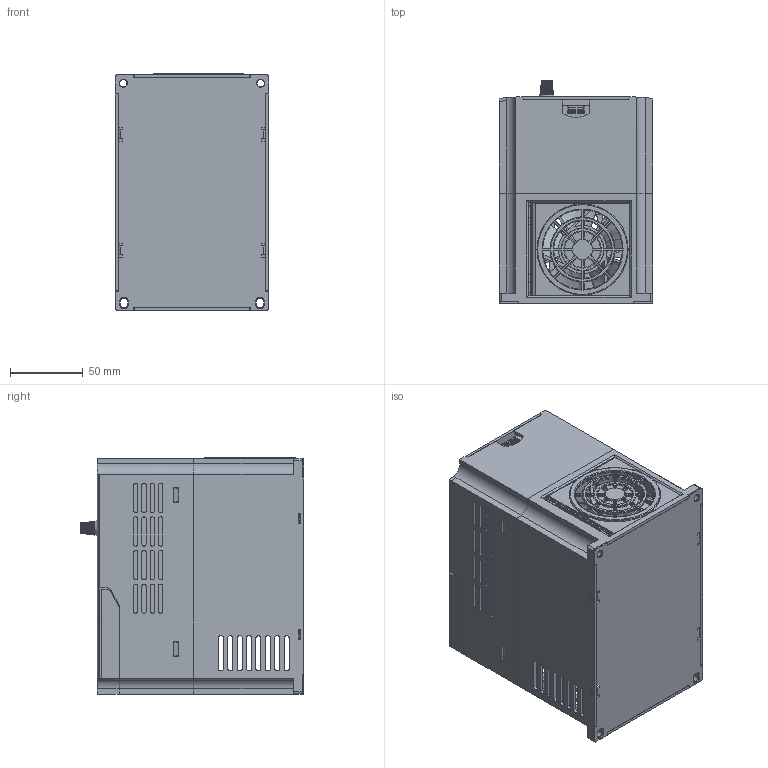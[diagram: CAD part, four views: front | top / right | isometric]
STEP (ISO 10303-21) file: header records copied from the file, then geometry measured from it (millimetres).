
FILE_DESCRIPTION(('STEP AP203'), '1');
FILE_NAME('Âíåø. Ïðåîáðàçîâàòåëü ÷àñòîòû _ LCI-G2.2-2B (S) ', '', ('UNSPECIFIED'), ('UNSPECIFIED'), 'C3D Converter', 'C3D Toolkit', '');
FILE_SCHEMA(('CONFIG_CONTROL_DESIGN'));
Length unit declared in the file: millimetre
Products named in the file (13):  LCI-G0.75-1;  LCI-G0.75; LCI-KP-S; Панель управления
Assembly tree (12 placements, depth 3):
   LCI-G0.75-1
     LCI-G0.75
     LCI-G0.75
     LCI-G0.75
     LCI-G0.75
    (unnamed)
     LCI-G0.75
    LCI-KP-S
      Панель управления
      Панель управления
      Панель управления
      Панель управления
      Панель управления
Bounding box: 105.01 x 153.1 x 162 mm (x, y, z)
Volume: 334228.3 mm3; surface area: 380960.7 mm2
Topology: 27 solids, 27 shells, 3741 faces, 10281 edges, 6756 vertices
Faces by surface type: plane 2429, cylinder 923, bspline 197, cone 130, torus 60, sphere 2
Full cylindrical faces by diameter (mm): 1.2 x32, 1.5 x5, 2 x14, 2.2 x2, 2.486 x2, 2.5 x8, 3 x6, 3.4 x8, 3.5 x17, 4 x23, 4.5 x4, 5 x8, 5.5 x3, 6 x24, 7 x5, 8 x3, 8.5 x1, 11 x8, 33 x1, 37.5 x2, 56.5 x1, 62.5 x1
Entity records: 152162 total; most frequent: CARTESIAN_POINT 49840, ORIENTED_EDGE 20170, DIRECTION 18830, EDGE_CURVE 10085, LINE 7312, VECTOR 7312, VERTEX_POINT 6756, AXIS2_PLACEMENT_3D 5759
